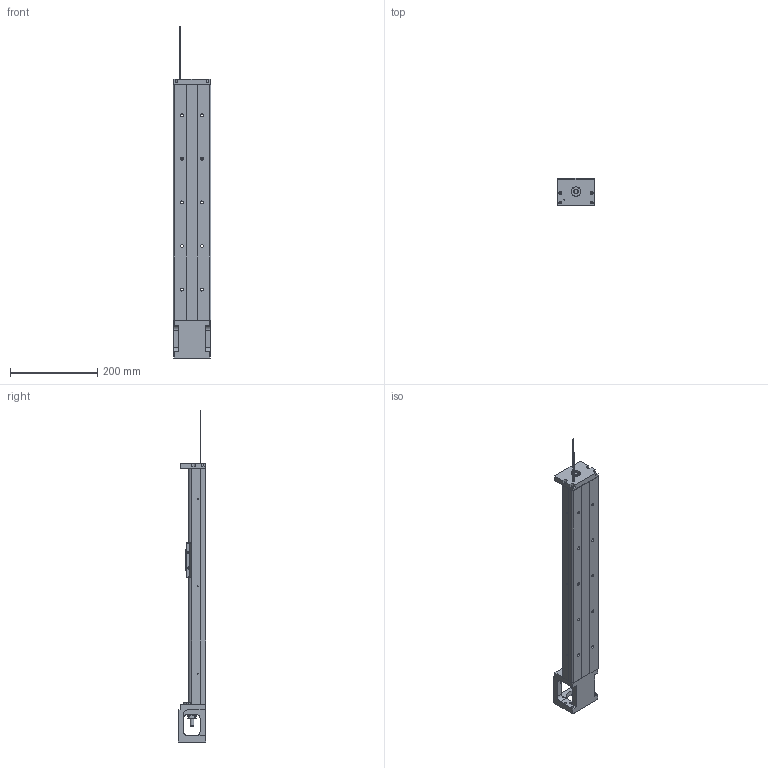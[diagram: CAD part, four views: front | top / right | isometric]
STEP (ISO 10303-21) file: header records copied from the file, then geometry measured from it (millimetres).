
FILE_DESCRIPTION(/* description */ (''),/* implementation_level */ '2;1');
FILE_NAME(/* name */ 'KP46S-540.stp',/* time_stamp */ '2020-06-05T10:26:32+08:00',/* author */ (''),/* organization */ (''),/* preprocessor_version */ 'ST-DEVELOPER v14',/* originating_system */ 'SIEMENS PLM Software NX 8.0',/* authorisation */ '');
FILE_SCHEMA (('AUTOMOTIVE_DESIGN { 1 0 10303 214 3 1 1 1 }'));
Length unit declared in the file: millimetre
Products named in the file (1): model1
Bounding box: 86 x 64 x 761.85 mm (x, y, z)
Volume: 1303486.9 mm3; surface area: 283993.6 mm2
Topology: 5 solids, 16 shells, 616 faces, 1623 edges, 1073 vertices
Faces by surface type: plane 283, cylinder 222, cone 56, bspline 47, torus 8
Full cylindrical faces by diameter (mm): 2 x2, 2.11 x2, 2.15 x6, 2.42 x6, 3 x4, 3.2 x4, 3.3 x8, 3.4 x8, 4 x2, 4.2 x4, 4.5 x8, 5 x6, 6 x8, 6.35 x2, 6.6 x10, 6.7 x2, 8 x1, 8.7 x4, 9.6 x1, 10 x3, 11 x10, 12 x1, 14.95 x2, 15 x1, 16 x2, 22 x3, 27.5 x1, 44 x1, 50 x1
Entity records: 29186 total; most frequent: CARTESIAN_POINT 12698, ORIENTED_EDGE 2786, DIRECTION 2667, EDGE_CURVE 1393, VERTEX_POINT 1003, AXIS2_PLACEMENT_3D 999, EDGE_LOOP 868, LINE 669
